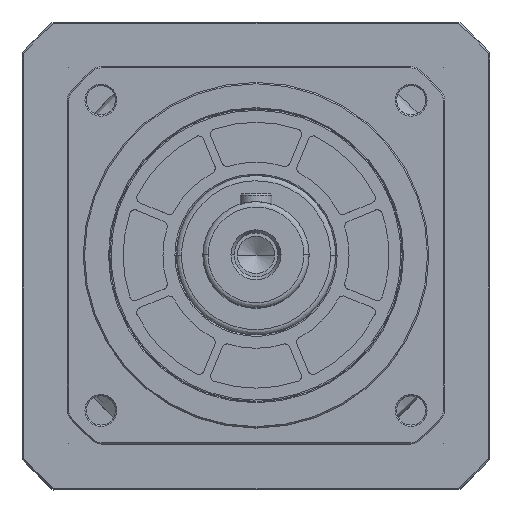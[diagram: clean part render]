
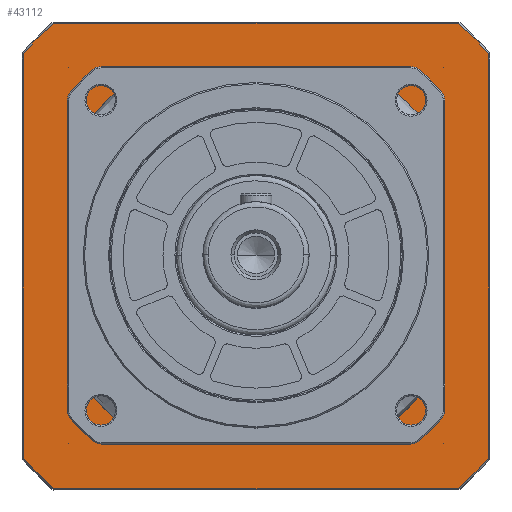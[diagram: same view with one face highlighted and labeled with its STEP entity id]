
A CAD part, top view. The second image highlights one B-rep face of the part: STEP entity #43112.
In plain terms, the highlighted planar face has unit normal (0, 0, 1).
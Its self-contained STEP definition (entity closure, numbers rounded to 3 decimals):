
#2048 = CIRCLE ( 'NONE', #39463, 81. ) ;
#2823 = CARTESIAN_POINT ( 'NONE',  ( 0., 0., 30. ) ) ;
#3477 = VERTEX_POINT ( 'NONE', #25790 ) ;
#3670 = EDGE_LOOP ( 'NONE', ( #14960, #36580, #24931, #53302, #10463, #46738, #44234, #14842 ) ) ;
#4183 = DIRECTION ( 'NONE',  ( 0., 0., 1. ) ) ;
#4332 = DIRECTION ( 'NONE',  ( 0., 0., 1. ) ) ;
#4393 = VERTEX_POINT ( 'NONE', #68675 ) ;
#4967 = AXIS2_PLACEMENT_3D ( 'NONE', #12317, #40727, #57510 ) ;
#5902 = DIRECTION ( 'NONE',  ( 0., 0., 1. ) ) ;
#6566 = CARTESIAN_POINT ( 'NONE',  ( 87.5, 76.156, 30. ) ) ;
#6586 = VERTEX_POINT ( 'NONE', #64538 ) ;
#7210 = EDGE_CURVE ( 'NONE', #29657, #6586, #59232, .T. ) ;
#8144 = CIRCLE ( 'NONE', #49231, 81. ) ;
#8729 = LINE ( 'NONE', #43116, #24529 ) ;
#8761 = DIRECTION ( 'NONE',  ( 0., -1., 0. ) ) ;
#9161 = LINE ( 'NONE', #21553, #52624 ) ;
#9969 = VERTEX_POINT ( 'NONE', #23720 ) ;
#10463 = ORIENTED_EDGE ( 'NONE', *, *, #51573, .F. ) ;
#10574 = LINE ( 'NONE', #18438, #43791 ) ;
#10941 = AXIS2_PLACEMENT_3D ( 'NONE', #39603, #4183, #45520 ) ;
#11162 = LINE ( 'NONE', #36873, #72247 ) ;
#11207 = EDGE_CURVE ( 'NONE', #6586, #33891, #71013, .T. ) ;
#11723 = DIRECTION ( 'NONE',  ( -1., 0., 0. ) ) ;
#11834 = DIRECTION ( 'NONE',  ( 0., -1., 0. ) ) ;
#11844 = LINE ( 'NONE', #17442, #41391 ) ;
#11991 = VECTOR ( 'NONE', #11834, 1000. ) ;
#12311 = CIRCLE ( 'NONE', #34543, 116. ) ;
#12317 = CARTESIAN_POINT ( 'NONE',  ( 0., 0., 30. ) ) ;
#12344 = CARTESIAN_POINT ( 'NONE',  ( 87.5, -76.156, 30. ) ) ;
#13195 = ORIENTED_EDGE ( 'NONE', *, *, #7210, .T. ) ;
#13853 = PLANE ( 'NONE',  #56314 ) ;
#14016 = VECTOR ( 'NONE', #37343, 1000. ) ;
#14453 = VERTEX_POINT ( 'NONE', #37684 ) ;
#14595 = EDGE_CURVE ( 'NONE', #3477, #9969, #43926, .T. ) ;
#14842 = ORIENTED_EDGE ( 'NONE', *, *, #34579, .T. ) ;
#14960 = ORIENTED_EDGE ( 'NONE', *, *, #21201, .T. ) ;
#15705 = LINE ( 'NONE', #53173, #11991 ) ;
#15850 = CIRCLE ( 'NONE', #59218, 116. ) ;
#16106 = CARTESIAN_POINT ( 'NONE',  ( 38.987, 71., 30. ) ) ;
#16202 = EDGE_CURVE ( 'NONE', #54919, #44134, #10574, .T. ) ;
#16435 = DIRECTION ( 'NONE',  ( 0., 0., -1. ) ) ;
#17188 = DIRECTION ( 'NONE',  ( 0., 1., 0. ) ) ;
#17442 = CARTESIAN_POINT ( 'NONE',  ( -71., 0., 30. ) ) ;
#17582 = CIRCLE ( 'NONE', #10941, 116. ) ;
#18116 = EDGE_CURVE ( 'NONE', #21951, #29657, #15850, .T. ) ;
#18438 = CARTESIAN_POINT ( 'NONE',  ( 0., -71., 30. ) ) ;
#19598 = EDGE_CURVE ( 'NONE', #14453, #21951, #15705, .T. ) ;
#20327 = CARTESIAN_POINT ( 'NONE',  ( 0., 0., 30. ) ) ;
#20939 = AXIS2_PLACEMENT_3D ( 'NONE', #64873, #29647, #70929 ) ;
#21201 = EDGE_CURVE ( 'NONE', #63758, #4393, #11844, .T. ) ;
#21553 = CARTESIAN_POINT ( 'NONE',  ( 0., 71., 30. ) ) ;
#21951 = VERTEX_POINT ( 'NONE', #56032 ) ;
#22927 = CARTESIAN_POINT ( 'NONE',  ( 71., 38.987, 30. ) ) ;
#23328 = CARTESIAN_POINT ( 'NONE',  ( 38.987, -71., 30. ) ) ;
#23720 = CARTESIAN_POINT ( 'NONE',  ( -76.156, 87.5, 30. ) ) ;
#24529 = VECTOR ( 'NONE', #49131, 1000. ) ;
#24545 = ORIENTED_EDGE ( 'NONE', *, *, #19598, .T. ) ;
#24931 = ORIENTED_EDGE ( 'NONE', *, *, #54787, .T. ) ;
#25596 = ORIENTED_EDGE ( 'NONE', *, *, #61014, .T. ) ;
#25790 = CARTESIAN_POINT ( 'NONE',  ( 76.156, 87.5, 30. ) ) ;
#26293 = DIRECTION ( 'NONE',  ( 0., -1., 0. ) ) ;
#26964 = ORIENTED_EDGE ( 'NONE', *, *, #46289, .T. ) ;
#29040 = ORIENTED_EDGE ( 'NONE', *, *, #11207, .T. ) ;
#29647 = DIRECTION ( 'NONE',  ( 0., 0., -1. ) ) ;
#29657 = VERTEX_POINT ( 'NONE', #51575 ) ;
#31008 = EDGE_CURVE ( 'NONE', #33891, #35781, #8729, .T. ) ;
#31188 = ORIENTED_EDGE ( 'NONE', *, *, #18116, .T. ) ;
#33891 = VERTEX_POINT ( 'NONE', #12344 ) ;
#34059 = CARTESIAN_POINT ( 'NONE',  ( -38.987, -71., 30. ) ) ;
#34543 = AXIS2_PLACEMENT_3D ( 'NONE', #41311, #5902, #47282 ) ;
#34579 = EDGE_CURVE ( 'NONE', #44134, #63758, #76035, .T. ) ;
#35731 = ORIENTED_EDGE ( 'NONE', *, *, #14595, .T. ) ;
#35781 = VERTEX_POINT ( 'NONE', #6566 ) ;
#36580 = ORIENTED_EDGE ( 'NONE', *, *, #56787, .T. ) ;
#36873 = CARTESIAN_POINT ( 'NONE',  ( 71., 0., 30. ) ) ;
#37343 = DIRECTION ( 'NONE',  ( 1., 0., 0. ) ) ;
#37380 = VERTEX_POINT ( 'NONE', #46645 ) ;
#37684 = CARTESIAN_POINT ( 'NONE',  ( -87.5, 76.156, 30. ) ) ;
#37856 = DIRECTION ( 'NONE',  ( 1., 0., 0. ) ) ;
#39336 = DIRECTION ( 'NONE',  ( 1., 0., 0. ) ) ;
#39463 = AXIS2_PLACEMENT_3D ( 'NONE', #51871, #16435, #57725 ) ;
#39603 = CARTESIAN_POINT ( 'NONE',  ( 0., 0., 30. ) ) ;
#39760 = CARTESIAN_POINT ( 'NONE',  ( 0., 0., 30. ) ) ;
#40053 = FACE_OUTER_BOUND ( 'NONE', #74288, .T. ) ;
#40727 = DIRECTION ( 'NONE',  ( 0., 0., 1. ) ) ;
#41311 = CARTESIAN_POINT ( 'NONE',  ( 0., 0., 30. ) ) ;
#41391 = VECTOR ( 'NONE', #17188, 1000. ) ;
#42765 = DIRECTION ( 'NONE',  ( 0., 1., 0. ) ) ;
#43112 = ADVANCED_FACE ( 'NONE', ( #69657, #40053 ), #13853, .T. ) ;
#43116 = CARTESIAN_POINT ( 'NONE',  ( 87.5, 0., 30. ) ) ;
#43568 = CARTESIAN_POINT ( 'NONE',  ( -38.987, 71., 30. ) ) ;
#43791 = VECTOR ( 'NONE', #11723, 1000. ) ;
#43926 = LINE ( 'NONE', #50458, #75536 ) ;
#44134 = VERTEX_POINT ( 'NONE', #34059 ) ;
#44139 = DIRECTION ( 'NONE',  ( 0., 0., -1. ) ) ;
#44234 = ORIENTED_EDGE ( 'NONE', *, *, #16202, .T. ) ;
#45520 = DIRECTION ( 'NONE',  ( 0., 1., 0. ) ) ;
#45687 = DIRECTION ( 'NONE',  ( 0., 1., 0. ) ) ;
#46289 = EDGE_CURVE ( 'NONE', #9969, #14453, #17582, .T. ) ;
#46645 = CARTESIAN_POINT ( 'NONE',  ( 71., -38.987, 30. ) ) ;
#46738 = ORIENTED_EDGE ( 'NONE', *, *, #48440, .T. ) ;
#47093 = VERTEX_POINT ( 'NONE', #22927 ) ;
#47282 = DIRECTION ( 'NONE',  ( 0., 1., 0. ) ) ;
#48440 = EDGE_CURVE ( 'NONE', #37380, #54919, #8144, .T. ) ;
#49131 = DIRECTION ( 'NONE',  ( 0., 1., 0. ) ) ;
#49173 = CARTESIAN_POINT ( 'NONE',  ( -71., -38.987, 30. ) ) ;
#49231 = AXIS2_PLACEMENT_3D ( 'NONE', #2823, #44139, #8761 ) ;
#50458 = CARTESIAN_POINT ( 'NONE',  ( 0., 87.5, 30. ) ) ;
#50808 = DIRECTION ( 'NONE',  ( -1., 0., 0. ) ) ;
#50900 = VERTEX_POINT ( 'NONE', #16106 ) ;
#51573 = EDGE_CURVE ( 'NONE', #37380, #47093, #11162, .T. ) ;
#51575 = CARTESIAN_POINT ( 'NONE',  ( -76.156, -87.5, 30. ) ) ;
#51871 = CARTESIAN_POINT ( 'NONE',  ( 0., 0., 30. ) ) ;
#52624 = VECTOR ( 'NONE', #39336, 1000. ) ;
#53173 = CARTESIAN_POINT ( 'NONE',  ( -87.5, 0., 30. ) ) ;
#53302 = ORIENTED_EDGE ( 'NONE', *, *, #61688, .T. ) ;
#54787 = EDGE_CURVE ( 'NONE', #57495, #50900, #9161, .T. ) ;
#54919 = VERTEX_POINT ( 'NONE', #23328 ) ;
#55419 = CARTESIAN_POINT ( 'NONE',  ( -87.5, -87.5, 30. ) ) ;
#56032 = CARTESIAN_POINT ( 'NONE',  ( -87.5, -76.156, 30. ) ) ;
#56314 = AXIS2_PLACEMENT_3D ( 'NONE', #55419, #73327, #37856 ) ;
#56787 = EDGE_CURVE ( 'NONE', #4393, #57495, #58848, .T. ) ;
#57495 = VERTEX_POINT ( 'NONE', #43568 ) ;
#57510 = DIRECTION ( 'NONE',  ( 0., 1., 0. ) ) ;
#57725 = DIRECTION ( 'NONE',  ( 0., -1., 0. ) ) ;
#58848 = CIRCLE ( 'NONE', #20939, 81. ) ;
#59218 = AXIS2_PLACEMENT_3D ( 'NONE', #39760, #4332, #45687 ) ;
#59232 = LINE ( 'NONE', #67030, #14016 ) ;
#61014 = EDGE_CURVE ( 'NONE', #35781, #3477, #12311, .T. ) ;
#61520 = DIRECTION ( 'NONE',  ( 0., 0., -1. ) ) ;
#61688 = EDGE_CURVE ( 'NONE', #50900, #47093, #2048, .T. ) ;
#62807 = ORIENTED_EDGE ( 'NONE', *, *, #31008, .T. ) ;
#63758 = VERTEX_POINT ( 'NONE', #49173 ) ;
#64538 = CARTESIAN_POINT ( 'NONE',  ( 76.156, -87.5, 30. ) ) ;
#64873 = CARTESIAN_POINT ( 'NONE',  ( 0., 0., 30. ) ) ;
#67030 = CARTESIAN_POINT ( 'NONE',  ( 0., -87.5, 30. ) ) ;
#68675 = CARTESIAN_POINT ( 'NONE',  ( -71., 38.987, 30. ) ) ;
#69657 = FACE_BOUND ( 'NONE', #3670, .T. ) ;
#70929 = DIRECTION ( 'NONE',  ( 0., -1., 0. ) ) ;
#71013 = CIRCLE ( 'NONE', #4967, 116. ) ;
#72247 = VECTOR ( 'NONE', #42765, 1000. ) ;
#73327 = DIRECTION ( 'NONE',  ( 0., 0., 1. ) ) ;
#74288 = EDGE_LOOP ( 'NONE', ( #13195, #29040, #62807, #25596, #35731, #26964, #24545, #31188 ) ) ;
#75137 = AXIS2_PLACEMENT_3D ( 'NONE', #20327, #61520, #26293 ) ;
#75536 = VECTOR ( 'NONE', #50808, 1000. ) ;
#76035 = CIRCLE ( 'NONE', #75137, 81. ) ;
